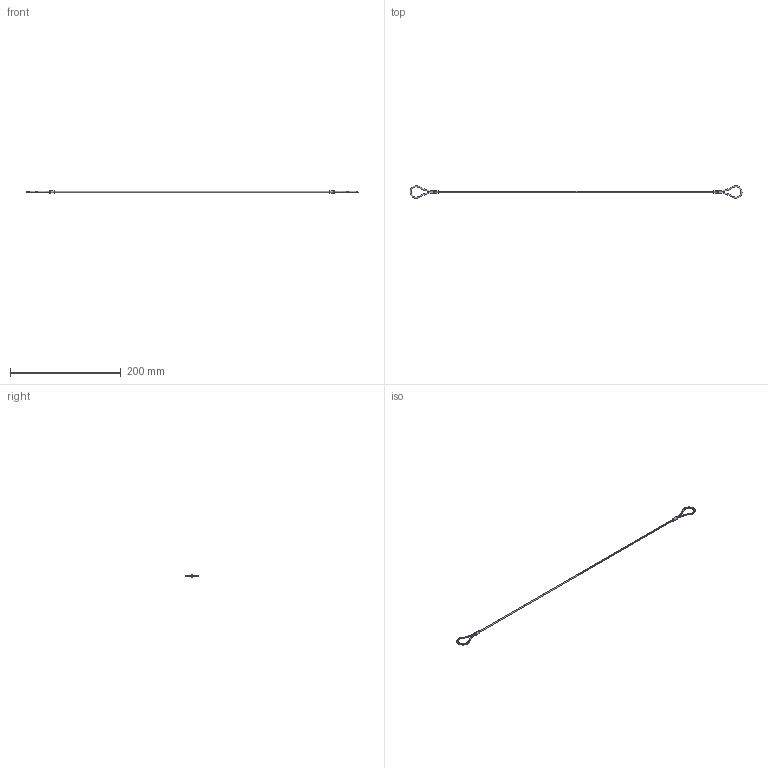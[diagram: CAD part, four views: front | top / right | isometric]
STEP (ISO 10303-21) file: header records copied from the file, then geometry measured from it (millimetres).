
FILE_DESCRIPTION (( 'STEP AP203' ), '1' );
FILE_NAME ('EB-935-20.STEP', '2013-08-12T06:38:55', ( 'SDS' ), ( 'SDS' ), 'SwSTEP 2.0', 'SolidWorks 2002296', '' );
FILE_SCHEMA (( 'CONFIG_CONTROL_DESIGN' ));
Length unit declared in the file: millimetre
Products named in the file (1): EB-935-20
Bounding box: 599.98 x 22.48 x 5 mm (x, y, z)
Volume: 2522.9 mm3; surface area: 4678.9 mm2
Topology: 1 solids, 1 shells, 36 faces, 88 edges, 52 vertices
Faces by surface type: bspline 24, cylinder 6, plane 6
Entity records: 1793 total; most frequent: CARTESIAN_POINT 993, ORIENTED_EDGE 176, DIRECTION 132, EDGE_CURVE 88, AXIS2_PLACEMENT_3D 63, VERTEX_POINT 52, CIRCLE 50, EDGE_LOOP 38
